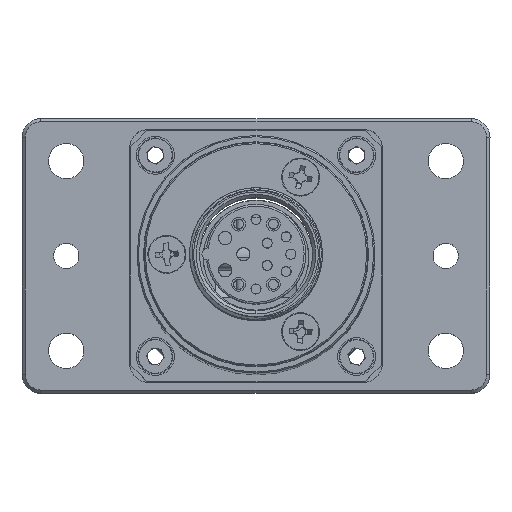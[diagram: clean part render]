
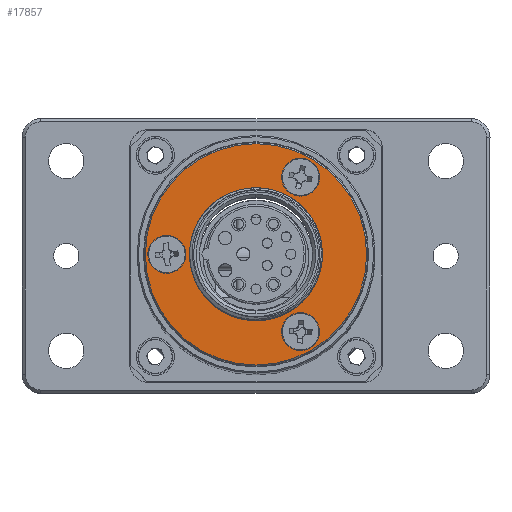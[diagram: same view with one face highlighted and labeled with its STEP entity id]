
A CAD part, top view. The second image highlights one B-rep face of the part: STEP entity #17857.
In plain terms, the highlighted planar face has unit normal (0, 0, 1).
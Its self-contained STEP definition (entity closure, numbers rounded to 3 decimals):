
#126 = FACE_BOUND ( 'NONE', #25109, .T. ) ;
#979 = CIRCLE ( 'NONE', #11524, 2.9 ) ;
#1494 = VERTEX_POINT ( 'NONE', #22959 ) ;
#1767 = VERTEX_POINT ( 'NONE', #26104 ) ;
#1979 = FACE_BOUND ( 'NONE', #20259, .T. ) ;
#2236 = FACE_BOUND ( 'NONE', #15566, .T. ) ;
#2386 = VERTEX_POINT ( 'NONE', #21441 ) ;
#2808 = CARTESIAN_POINT ( 'NONE',  ( 0., 0., 155.8 ) ) ;
#2847 = DIRECTION ( 'NONE',  ( 0., 1., 0. ) ) ;
#2990 = CARTESIAN_POINT ( 'NONE',  ( 7.05, 15.111, 155.8 ) ) ;
#3112 = CIRCLE ( 'NONE', #7321, 10.5 ) ;
#3349 = ORIENTED_EDGE ( 'NONE', *, *, #13461, .T. ) ;
#3724 = EDGE_CURVE ( 'NONE', #2386, #21585, #26051, .T. ) ;
#3753 = CIRCLE ( 'NONE', #18535, 2.9 ) ;
#3969 = PLANE ( 'NONE',  #13600 ) ;
#4244 = VERTEX_POINT ( 'NONE', #12385 ) ;
#4278 = CIRCLE ( 'NONE', #24544, 10.5 ) ;
#4419 = DIRECTION ( 'NONE',  ( 0., 0., -1. ) ) ;
#4952 = DIRECTION ( 'NONE',  ( 0., 0., -1. ) ) ;
#5189 = VERTEX_POINT ( 'NONE', #19974 ) ;
#5268 = DIRECTION ( 'NONE',  ( 0., 1., 0. ) ) ;
#5791 = CIRCLE ( 'NONE', #12990, 2.9 ) ;
#6140 = DIRECTION ( 'NONE',  ( 0., 1., 0. ) ) ;
#6325 = DIRECTION ( 'NONE',  ( 0., 0., -1. ) ) ;
#6412 = CARTESIAN_POINT ( 'NONE',  ( -14.1, 0., 155.8 ) ) ;
#6570 = EDGE_CURVE ( 'NONE', #1767, #5189, #979, .T. ) ;
#7168 = DIRECTION ( 'NONE',  ( 0., 0., -1. ) ) ;
#7321 = AXIS2_PLACEMENT_3D ( 'NONE', #16189, #24256, #6140 ) ;
#7773 = CARTESIAN_POINT ( 'NONE',  ( 7.05, 12.211, 155.8 ) ) ;
#8057 = FACE_OUTER_BOUND ( 'NONE', #13003, .T. ) ;
#8443 = CARTESIAN_POINT ( 'NONE',  ( 7.05, -12.211, 155.8 ) ) ;
#8678 = AXIS2_PLACEMENT_3D ( 'NONE', #6412, #14482, #22558 ) ;
#8757 = DIRECTION ( 'NONE',  ( 0., 0., -1. ) ) ;
#8893 = VERTEX_POINT ( 'NONE', #22062 ) ;
#8929 = VERTEX_POINT ( 'NONE', #17126 ) ;
#8930 = DIRECTION ( 'NONE',  ( 0., 1., 0. ) ) ;
#8991 = ORIENTED_EDGE ( 'NONE', *, *, #18728, .T. ) ;
#9213 = EDGE_CURVE ( 'NONE', #8929, #17104, #11151, .T. ) ;
#9607 = AXIS2_PLACEMENT_3D ( 'NONE', #7773, #15835, #5268 ) ;
#10045 = CARTESIAN_POINT ( 'NONE',  ( 0., 0., 155.8 ) ) ;
#10077 = VERTEX_POINT ( 'NONE', #15811 ) ;
#10097 = DIRECTION ( 'NONE',  ( 0., 1., 0. ) ) ;
#10168 = FACE_BOUND ( 'NONE', #14072, .T. ) ;
#10305 = DIRECTION ( 'NONE',  ( 0., 1., 0. ) ) ;
#10325 = ORIENTED_EDGE ( 'NONE', *, *, #3724, .F. ) ;
#10892 = CIRCLE ( 'NONE', #11730, 17.5 ) ;
#11128 = AXIS2_PLACEMENT_3D ( 'NONE', #22145, #24244, #10097 ) ;
#11151 = CIRCLE ( 'NONE', #11128, 2.9 ) ;
#11342 = EDGE_CURVE ( 'NONE', #5189, #1767, #24301, .T. ) ;
#11524 = AXIS2_PLACEMENT_3D ( 'NONE', #23208, #4952, #2847 ) ;
#11730 = AXIS2_PLACEMENT_3D ( 'NONE', #21420, #23261, #25651 ) ;
#11905 = ORIENTED_EDGE ( 'NONE', *, *, #9213, .T. ) ;
#12385 = CARTESIAN_POINT ( 'NONE',  ( 0., 10.5, 155.8 ) ) ;
#12990 = AXIS2_PLACEMENT_3D ( 'NONE', #22927, #4419, #24508 ) ;
#13003 = EDGE_LOOP ( 'NONE', ( #10325, #14266 ) ) ;
#13193 = EDGE_CURVE ( 'NONE', #1494, #8893, #5791, .T. ) ;
#13227 = ORIENTED_EDGE ( 'NONE', *, *, #11342, .T. ) ;
#13461 = EDGE_CURVE ( 'NONE', #17104, #8929, #26077, .T. ) ;
#13487 = ORIENTED_EDGE ( 'NONE', *, *, #15396, .T. ) ;
#13600 = AXIS2_PLACEMENT_3D ( 'NONE', #10045, #18111, #10305 ) ;
#14004 = ORIENTED_EDGE ( 'NONE', *, *, #23461, .T. ) ;
#14029 = ORIENTED_EDGE ( 'NONE', *, *, #13193, .T. ) ;
#14072 = EDGE_LOOP ( 'NONE', ( #8991, #14004 ) ) ;
#14266 = ORIENTED_EDGE ( 'NONE', *, *, #25391, .F. ) ;
#14482 = DIRECTION ( 'NONE',  ( 0., 0., -1. ) ) ;
#15396 = EDGE_CURVE ( 'NONE', #8893, #1494, #3753, .T. ) ;
#15566 = EDGE_LOOP ( 'NONE', ( #14029, #13487 ) ) ;
#15811 = CARTESIAN_POINT ( 'NONE',  ( 0., -10.5, 155.8 ) ) ;
#15835 = DIRECTION ( 'NONE',  ( 0., 0., -1. ) ) ;
#16110 = CARTESIAN_POINT ( 'NONE',  ( 0., 17.5, 155.8 ) ) ;
#16189 = CARTESIAN_POINT ( 'NONE',  ( 0., 0., 155.8 ) ) ;
#16954 = DIRECTION ( 'NONE',  ( 0., 1., 0. ) ) ;
#17104 = VERTEX_POINT ( 'NONE', #2990 ) ;
#17126 = CARTESIAN_POINT ( 'NONE',  ( 7.05, 9.311, 155.8 ) ) ;
#17215 = CARTESIAN_POINT ( 'NONE',  ( 0., 0., 155.8 ) ) ;
#17857 = ADVANCED_FACE ( 'NONE', ( #10168, #126, #2236, #1979, #8057 ), #3969, .T. ) ;
#18111 = DIRECTION ( 'NONE',  ( 0., 0., 1. ) ) ;
#18535 = AXIS2_PLACEMENT_3D ( 'NONE', #8443, #6325, #8930 ) ;
#18728 = EDGE_CURVE ( 'NONE', #4244, #10077, #4278, .T. ) ;
#18873 = AXIS2_PLACEMENT_3D ( 'NONE', #17215, #7168, #19452 ) ;
#19452 = DIRECTION ( 'NONE',  ( 0., -1., 0. ) ) ;
#19974 = CARTESIAN_POINT ( 'NONE',  ( -14.1, -2.9, 155.8 ) ) ;
#20259 = EDGE_LOOP ( 'NONE', ( #26140, #13227 ) ) ;
#21420 = CARTESIAN_POINT ( 'NONE',  ( 0., 0., 155.8 ) ) ;
#21441 = CARTESIAN_POINT ( 'NONE',  ( 0., -17.5, 155.8 ) ) ;
#21585 = VERTEX_POINT ( 'NONE', #16110 ) ;
#22062 = CARTESIAN_POINT ( 'NONE',  ( 7.05, -15.111, 155.8 ) ) ;
#22145 = CARTESIAN_POINT ( 'NONE',  ( 7.05, 12.211, 155.8 ) ) ;
#22558 = DIRECTION ( 'NONE',  ( 0., 1., 0. ) ) ;
#22927 = CARTESIAN_POINT ( 'NONE',  ( 7.05, -12.211, 155.8 ) ) ;
#22959 = CARTESIAN_POINT ( 'NONE',  ( 7.05, -9.311, 155.8 ) ) ;
#23208 = CARTESIAN_POINT ( 'NONE',  ( -14.1, 0., 155.8 ) ) ;
#23261 = DIRECTION ( 'NONE',  ( 0., 0., -1. ) ) ;
#23461 = EDGE_CURVE ( 'NONE', #10077, #4244, #3112, .T. ) ;
#24244 = DIRECTION ( 'NONE',  ( 0., 0., -1. ) ) ;
#24256 = DIRECTION ( 'NONE',  ( 0., 0., -1. ) ) ;
#24301 = CIRCLE ( 'NONE', #8678, 2.9 ) ;
#24508 = DIRECTION ( 'NONE',  ( 0., 1., 0. ) ) ;
#24544 = AXIS2_PLACEMENT_3D ( 'NONE', #2808, #8757, #16954 ) ;
#25109 = EDGE_LOOP ( 'NONE', ( #3349, #11905 ) ) ;
#25391 = EDGE_CURVE ( 'NONE', #21585, #2386, #10892, .T. ) ;
#25651 = DIRECTION ( 'NONE',  ( 0., -1., 0. ) ) ;
#26051 = CIRCLE ( 'NONE', #18873, 17.5 ) ;
#26077 = CIRCLE ( 'NONE', #9607, 2.9 ) ;
#26104 = CARTESIAN_POINT ( 'NONE',  ( -14.1, 2.9, 155.8 ) ) ;
#26140 = ORIENTED_EDGE ( 'NONE', *, *, #6570, .T. ) ;
